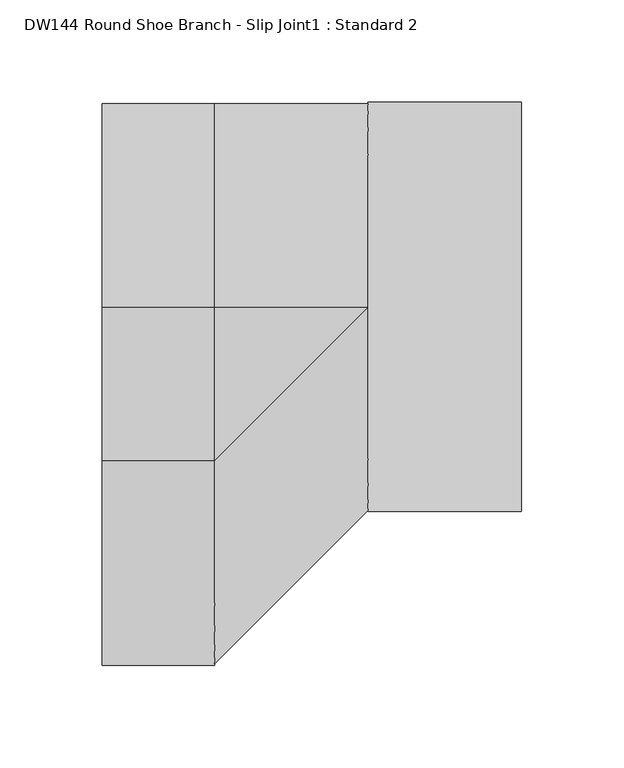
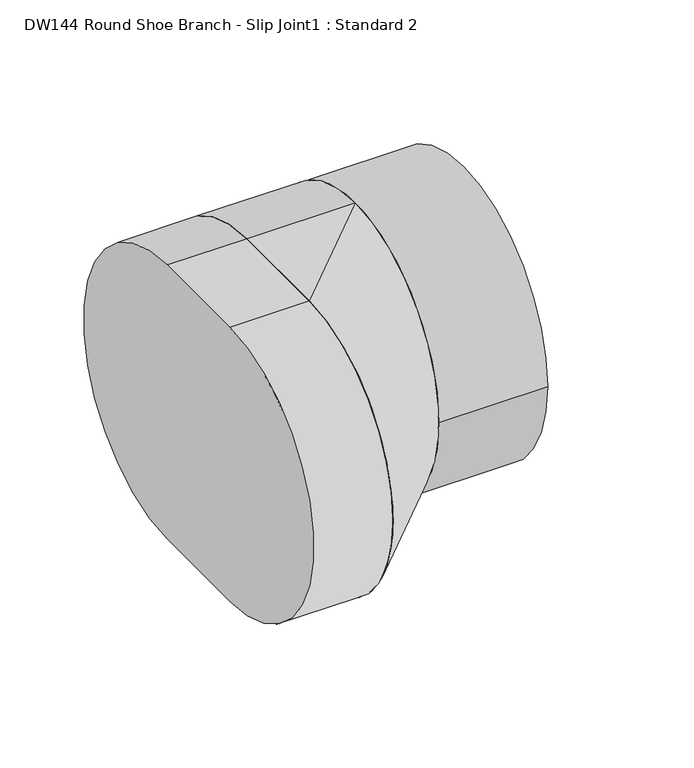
"""IFC4 building model written with IfcOpenShell, lengths in millimetres: duct fitting geometry, DW144 Round Shoe Branch - Slip Joint1 : Standard 2."""

import ifcopenshell
import ifcopenshell.guid

model = None  # the IFC model being written
_history = None  # IfcOwnerHistory: only IFC2X3 demands one
_inside = {}  # id of a spatial element -> (the spatial element, [elements in it])
_under = {}  # id of a project, library or spatial element -> (it, [spatial elements below it])
_declared = {}  # id of a project -> (the project, [libraries it declares])
_typed = {}  # id of a type object -> (the type object, [elements of that type])
_made_of = {}  # id of a material, layer set ... -> (it, [elements and type objects made of it])


def new_model(schema):
    """Start an empty IFC model of exactly this schema.

    Asked for "IFC4X3", IfcOpenShell would pick the latest addendum, in which some entities
    have other attributes; the version numbers below select the first issue.
    IFC2X3 requires an IfcOwnerHistory on every rooted entity: one is made here for all.
    """
    global model, _history
    if schema == "IFC4X3":
        model = ifcopenshell.file(schema_version=(4, 3, 0, 0))
    else:
        model = ifcopenshell.file(schema=schema)
    _inside.clear()
    _under.clear()
    _declared.clear()
    _typed.clear()
    _made_of.clear()
    _history = None
    if model.schema == "IFC2X3":
        org = make("IfcOrganization", Name="unknown")
        user = make(
            "IfcPersonAndOrganization",
            ThePerson=make("IfcPerson", FamilyName="unknown"),
            TheOrganization=org,
        )
        app = make(
            "IfcApplication",
            ApplicationDeveloper=org,
            Version="unknown",
            ApplicationFullName="unknown",
            ApplicationIdentifier="unknown",
        )
        _history = make(
            "IfcOwnerHistory",
            OwningUser=user,
            OwningApplication=app,
            ChangeAction="ADDED",
            CreationDate=0,
        )
    return model


def make(cls, **values):
    """One entity of the class cls with the attributes given. An attribute that is None is left unset."""
    return model.create_entity(
        cls, **{name: value for name, value in values.items() if value is not None}
    )


def rooted(cls, **values):
    """An entity with a GlobalId (a new one), such as an element, a storey or a relation."""
    return make(cls, GlobalId=ifcopenshell.guid.new(), OwnerHistory=_history, **values)


def si_unit(unit_type, name, prefix=None):
    """IfcSIUnit, for example si_unit("LENGTHUNIT", "METRE", prefix="MILLI")."""
    return make("IfcSIUnit", UnitType=unit_type, Prefix=prefix, Name=name)


def assignment(units):
    """IfcUnitAssignment: the units of a project."""
    return None if units is None else make("IfcUnitAssignment", Units=units)


def point(xyz):
    """IfcCartesianPoint."""
    return None if xyz is None else make("IfcCartesianPoint", Coordinates=xyz)


def direction(xyz):
    """IfcDirection."""
    return None if xyz is None else make("IfcDirection", DirectionRatios=xyz)


def frame(location, z_axis=None, x_axis=None):
    """IfcAxis2Placement3D, a coordinate frame: its origin and axes. An axis left out is left unset."""
    return make(
        "IfcAxis2Placement3D",
        Location=point(location),
        Axis=direction(z_axis),
        RefDirection=direction(x_axis),
    )


def frame_2d(location, x_axis=None):
    """IfcAxis2Placement2D, a coordinate frame in the plane: its origin and x axis."""
    return make(
        "IfcAxis2Placement2D", Location=point(location), RefDirection=direction(x_axis)
    )


def origin():
    """The frame at (0, 0, 0) with its axes left unset."""
    return frame((0.0, 0.0, 0.0))


def origin_2d():
    """The frame at (0, 0) in the plane with its x axis left unset."""
    return frame_2d((0.0, 0.0))


def place(relative_to, where):
    """IfcLocalPlacement: puts the frame where relative to a parent placement (None: the world)."""
    return make(
        "IfcLocalPlacement", PlacementRelTo=relative_to, RelativePlacement=where
    )


def context(
    kind, dimensions, precision=None, world=None, true_north=None, identifier=None
):
    """IfcGeometricRepresentationContext, for example the 3D "Model" context."""
    return make(
        "IfcGeometricRepresentationContext",
        ContextIdentifier=identifier,
        ContextType=kind,
        CoordinateSpaceDimension=dimensions,
        Precision=precision,
        WorldCoordinateSystem=world,
        TrueNorth=true_north,
    )


def project(units=None, contexts=None):
    """IfcProject with its units and contexts."""
    return rooted(
        "IfcProject",
        Name="project",
        RepresentationContexts=contexts,
        UnitsInContext=assignment(units),
    )


def spatial(cls, under=None, at=None, **own):
    """A site, building, storey or space (cls), placed at a placement, below another one or the project."""
    s = rooted(cls, ObjectPlacement=at, **own)
    if under is not None:
        _under.setdefault(under.id(), (under, []))[1].append(s)
    return s


def polyline(points):
    """IfcPolyline through the points."""
    return make("IfcPolyline", Points=[point(p) for p in points])


def circle_curve(where, radius):
    """IfcCircle in the frame where."""
    return make("IfcCircle", Position=where, Radius=radius)


def trimmed(basis, trim1, trim2, sense, master):
    """IfcTrimmedCurve: the piece of a basis curve between two trims."""
    return make(
        "IfcTrimmedCurve",
        BasisCurve=basis,
        Trim1=trim1,
        Trim2=trim2,
        SenseAgreement=sense,
        MasterRepresentation=master,
    )


def segment(curve, same_sense, transition):
    """IfcCompositeCurveSegment."""
    return make(
        "IfcCompositeCurveSegment",
        Transition=transition,
        SameSense=same_sense,
        ParentCurve=curve,
    )


def composite_curve(segments, self_intersect=None):
    """IfcCompositeCurve: segments joined end to end."""
    return make("IfcCompositeCurve", Segments=segments, SelfIntersect=self_intersect)


def outline(outer, holes=None, kind="AREA"):
    """IfcArbitraryClosedProfileDef: a profile drawn as a closed curve; with holes, ...WithVoids."""
    if holes is None:
        return make("IfcArbitraryClosedProfileDef", ProfileType=kind, OuterCurve=outer)
    return make(
        "IfcArbitraryProfileDefWithVoids",
        ProfileType=kind,
        OuterCurve=outer,
        InnerCurves=holes,
    )


def extrude(swept, where, along, depth):
    """IfcExtrudedAreaSolid: the profile swept, set in the frame where, extruded along a direction by depth."""
    return make(
        "IfcExtrudedAreaSolid",
        SweptArea=swept,
        Position=where,
        ExtrudedDirection=direction(along),
        Depth=depth,
    )


def shape(context_of_items, identifier, shape_type, items):
    """IfcShapeRepresentation: the items that make up one representation, for example the "Body"."""
    return make(
        "IfcShapeRepresentation",
        ContextOfItems=context_of_items,
        RepresentationIdentifier=identifier,
        RepresentationType=shape_type,
        Items=items,
    )


def source(mapping_origin, context_of_items, identifier, shape_type, items):
    """IfcRepresentationMap: a shape defined once, which mapped items show again and again."""
    return make(
        "IfcRepresentationMap",
        MappingOrigin=mapping_origin,
        MappedRepresentation=shape(context_of_items, identifier, shape_type, items),
    )


def transform(
    local_origin,
    x_axis=None,
    y_axis=None,
    z_axis=None,
    scale=None,
    scale2=None,
    scale3=None,
    uniform=True,
):
    """IfcCartesianTransformationOperator3D, or its non-uniform kind. x_axis, y_axis, z_axis: its Axis1, 2, 3."""
    if uniform:
        return make(
            "IfcCartesianTransformationOperator3D",
            Axis1=direction(x_axis),
            Axis2=direction(y_axis),
            LocalOrigin=point(local_origin),
            Scale=scale,
            Axis3=direction(z_axis),
        )
    return make(
        "IfcCartesianTransformationOperator3DnonUniform",
        Axis1=direction(x_axis),
        Axis2=direction(y_axis),
        LocalOrigin=point(local_origin),
        Scale=scale,
        Axis3=direction(z_axis),
        Scale2=scale2,
        Scale3=scale3,
    )


def mapped(mapping_source, mapping_target):
    """IfcMappedItem: shows the shape of a source again, moved by a transform."""
    return make(
        "IfcMappedItem", MappingSource=mapping_source, MappingTarget=mapping_target
    )


def made_of(thing, what):
    """Note that an element or type object is made of a material, layer set ...; save() writes the relation."""
    if what is not None:
        _made_of.setdefault(what.id(), (what, []))[1].append(thing)
    return thing


def element(
    cls,
    number,
    at=None,
    inside=None,
    cuts=None,
    type_object=None,
    material=None,
    context=None,
    identifier="Body",
    shape_type=None,
    held_by="IfcProductDefinitionShape",
    body=None,
    shapes=None,
    **own,
):
    """One element of the class cls, such as IfcWall. Its Tag is "e" and its number.

    at: its placement. inside: the storey or other place that contains it. cuts: it is an
    opening in that element (IfcRelVoidsElement). A single representation is given by context,
    identifier, shape_type and body (its items); several are given by shapes. held_by: the class
    of the entity that holds the representations. save() writes the other relations.
    """
    e = rooted(cls, Tag="e%d" % number, ObjectPlacement=at, **own)
    if body is not None:
        shapes = [shape(context, identifier, shape_type, body)]
    if shapes is not None:
        e.Representation = make(held_by, Representations=shapes)
    if inside is not None:
        _inside.setdefault(inside.id(), (inside, []))[1].append(e)
    if cuts is not None:
        rooted(
            "IfcRelVoidsElement", RelatingBuildingElement=cuts, RelatedOpeningElement=e
        )
    if type_object is not None:
        _typed.setdefault(type_object.id(), (type_object, []))[1].append(e)
    return made_of(e, material)


def aggregate(whole, parts):
    """IfcRelAggregates: a whole, such as a stair, and the parts it consists of."""
    return rooted("IfcRelAggregates", RelatingObject=whole, RelatedObjects=parts)


def save(model, path):
    """Write the relations noted so far, then the file.

    IfcRelAggregates (storeys below a building ...), IfcRelContainedInSpatialStructure (elements
    in a storey), IfcRelDefinesByType, IfcRelAssociatesMaterial and IfcRelDeclares: one each for
    every whole, place, type object, material and project.
    """
    for whole, parts in _under.values():
        aggregate(whole, parts)
    for where, things in _inside.values():
        rooted(
            "IfcRelContainedInSpatialStructure",
            RelatedElements=things,
            RelatingStructure=where,
        )
    for kind, things in _typed.values():
        rooted("IfcRelDefinesByType", RelatedObjects=things, RelatingType=kind)
    for what, things in _made_of.values():
        rooted("IfcRelAssociatesMaterial", RelatedObjects=things, RelatingMaterial=what)
    for by, libraries in _declared.values():
        rooted("IfcRelDeclares", RelatingContext=by, RelatedDefinitions=libraries)
    model.write(path)


def plane_surface(at):
    """IfcPlane: the flat surface through the origin of the frame at, square to its z axis."""
    return make("IfcPlane", Position=at)


def cylinder_surface(at, radius):
    """IfcCylindricalSurface: all points at the distance radius from the z axis of the frame at."""
    return make("IfcCylindricalSurface", Position=at, Radius=radius)


def extruded_surface(curve, direction_of_extrusion, depth):
    """IfcSurfaceOfLinearExtrusion: the curve pushed along a direction by depth."""
    return make(
        "IfcSurfaceOfLinearExtrusion",
        SweptCurve=make("IfcArbitraryOpenProfileDef", ProfileType="CURVE", Curve=curve),
        ExtrudedDirection=direction(direction_of_extrusion),
        Depth=depth,
    )


def advanced_brep(points, edges, surfaces, faces):
    """IfcAdvancedBrep: a solid bounded by faces that lie on surfaces and meet in shared edges.

    An edge is (start, end): straight between two places in points (the first is 0);
    or (start, end, curve); or (start, end, curve, False) where it runs against its curve.
    A face is (place in surfaces, loops), or (place, loops, False) where it looks against
    its surface's normal. A loop lists edges by number (the first is 1), with a minus sign
    where the edge is run from its end to its start. The first loop is the outer one.
    """
    corners = [point(p) for p in points]
    vertices = [make("IfcVertexPoint", VertexGeometry=c) for c in corners]
    made = []
    for start, end, *more in edges:
        made.append(
            make(
                "IfcEdgeCurve",
                EdgeStart=vertices[start],
                EdgeEnd=vertices[end],
                EdgeGeometry=more[0] if more else make("IfcPolyline", Points=[corners[start], corners[end]]),
                SameSense=more[1] if len(more) > 1 else True,
            )
        )
    hull = []
    for where, loops, *sense in faces:
        bounds = []
        for j, loop in enumerate(loops):
            ring = [make("IfcOrientedEdge", EdgeElement=made[abs(k) - 1], Orientation=k > 0) for k in loop]
            bounds.append(
                make(
                    "IfcFaceOuterBound" if j == 0 else "IfcFaceBound",
                    Bound=make("IfcEdgeLoop", EdgeList=ring),
                    Orientation=True,
                )
            )
        hull.append(make("IfcAdvancedFace", Bounds=bounds, FaceSurface=surfaces[where], SameSense=sense[0] if sense else True))
    return make("IfcAdvancedBrep", Outer=make("IfcClosedShell", CfsFaces=hull))


def dw144_round_shoe_branch_slip_joint1_standard_2_0a8c125d(model_context):
    return source(origin(), model_context, "Body", "SolidModel", [
        extrude(outline(composite_curve([segment(trimmed(circle_curve(origin_2d(), 100.0), [point((-100.0, 0.0))], [point((100.0, 0.0))], False, "CARTESIAN"), True, "CONTINUOUS"), segment(trimmed(circle_curve(origin_2d(), 100.0), [point((100.0, 0.0))], [point((-100.0, 0.0))], False, "CARTESIAN"), True, "CONTINUOUS")], self_intersect=False)), frame((75.0, 0.0, 0.0), z_axis=(1.0, 0.0, 0.0), x_axis=(0.0, 1.0, 0.0)), (0.0, 0.0, 1.0), 75.0),
        advanced_brep(
        [(75.0, 0.0, -100.0), (75.0, 0.0, 100.0), (0.0, 0.0, -100.0), (0.0, -75.0, -100.0), (0.0, -75.0, 100.0), (0.0, 0.0, 100.0)],
        [
            (0, 1, circle_curve(frame((75.0, 0.0, 0.0), z_axis=(1.0, 0.0, 0.0), x_axis=(0.0, 1.0, 0.0)), 100.0)),
            (1, 0, circle_curve(frame((75.0, 0.0, 0.0), z_axis=(1.0, 0.0, 0.0), x_axis=(0.0, 1.0, 0.0)), 100.0)),
            (2, 3),
            (3, 4, circle_curve(frame((0.0, -75.0, 0.0), z_axis=(-1.0, 0.0, 0.0), x_axis=(0.0, 1.0, 0.0)), 100.0)),
            (4, 5),
            (5, 2, circle_curve(frame((0.0, 0.0, 0.0), z_axis=(-1.0, 0.0, 0.0), x_axis=(0.0, 1.0, 0.0)), 100.0)),
            (5, 1),
            (0, 2),
            (4, 1),
            (3, 0),
        ],
        [
            plane_surface(frame((75.0, 0.0, 0.0), z_axis=(1.0, 0.0, 0.0), x_axis=(0.0, 1.0, 0.0))),
            plane_surface(frame((0.0, -37.5, 0.0), z_axis=(-1.0, 0.0, 0.0), x_axis=(0.0, 1.0, 0.0))),
            cylinder_surface(frame((0.0, 0.0, 0.0), z_axis=(1.0, 0.0, 0.0), x_axis=(0.0, 1.0, 0.0)), 100.0),
            plane_surface(frame((0.0, -37.5, 100.0), z_axis=(0.0, 0.0, 1.0), x_axis=(0.0, -1.0, 0.0))),
            extruded_surface(trimmed(circle_curve(frame((0.0, -75.0, 0.0), z_axis=(1.0, 0.0, 0.0), x_axis=(0.0, 1.0, 0.0)), 100.0), [point((0.0, -75.0, 100.0))], [point((0.0, -75.0, -100.0))], True, "CARTESIAN"), (75.0, 75.0, 0.0), 106.06601717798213),
            plane_surface(frame((0.0, -37.5, -100.0), z_axis=(0.0, 0.0, -1.0), x_axis=(0.0, 1.0, 0.0))),
        ],
        [
            (0, [[1, 2]]),
            (1, [[3, 4, 5, 6]]),
            (2, [[-6, 7, -1, 8]]),
            (3, [[-5, 9, -7]]),
            (4, [[-4, 10, -2, -9]]),
            (5, [[-3, -8, -10]]),
        ],
    ),
        extrude(outline(composite_curve([segment(polyline([(0.0, -100.0), (-75.0, -100.0)]), True, "CONTINUOUS"), segment(trimmed(circle_curve(frame_2d((-75.0, 0.0)), 100.0), [point((-75.0, -100.0))], [point((-75.0, 100.0))], False, "CARTESIAN"), True, "CONTINUOUS"), segment(polyline([(-75.0, 100.0), (0.0, 100.0)]), True, "CONTINUOUS"), segment(trimmed(circle_curve(origin_2d(), 100.0), [point((0.0, 100.0))], [point((0.0, -100.0))], False, "CARTESIAN"), True, "CONTINUOUS")], self_intersect=False)), frame((-54.8080699, 0.0, 0.0), z_axis=(1.0, 0.0, 0.0), x_axis=(0.0, 1.0, 0.0)), (0.0, 0.0, 1.0), 54.8080699),
    ])


if __name__ == "__main__":
    model = new_model("IFC4")
    model_context = context("Model", 3, world=origin())
    ifc_project = project(units=[si_unit("LENGTHUNIT", "METRE", prefix="MILLI")], contexts=[model_context])
    site = spatial("IfcSite", under=ifc_project)
    building = spatial("IfcBuilding", under=site)
    placement = place(None, origin())
    dw144_round_shoe_branch_slip_joint1_standard_2_shape = dw144_round_shoe_branch_slip_joint1_standard_2_0a8c125d(model_context)
    element("IfcDuctFitting", 1, ObjectType="DW144 Round Shoe Branch - Slip Joint1 : Standard 2", at=placement, inside=building, context=model_context, shape_type="MappedRepresentation", body=[
        mapped(dw144_round_shoe_branch_slip_joint1_standard_2_shape, transform((0.0, 0.0, 0.0), x_axis=(1.0, 0.0, 0.0), y_axis=(0.0, 1.0, 0.0), z_axis=(0.0, 0.0, 1.0))),
    ])
    save(model, "model.ifc")
